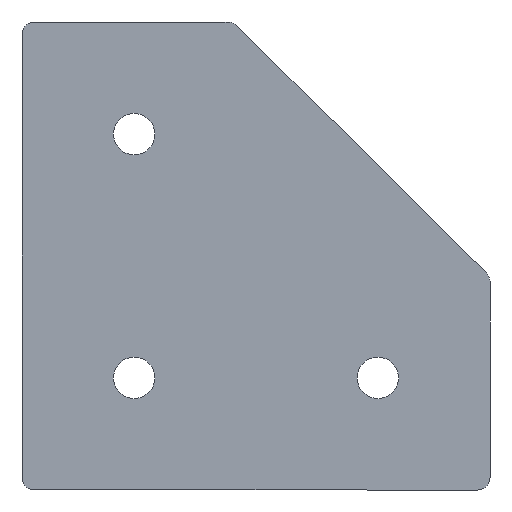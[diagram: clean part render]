
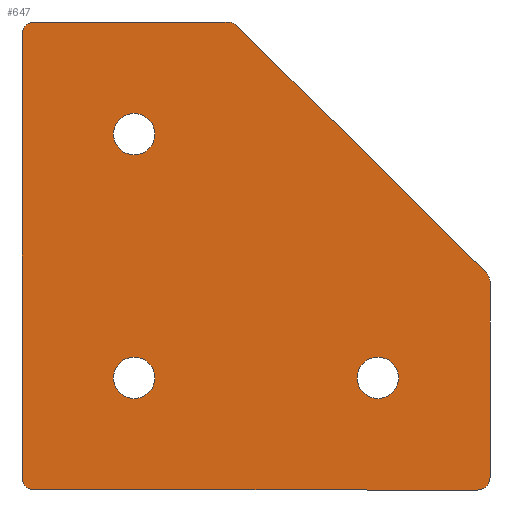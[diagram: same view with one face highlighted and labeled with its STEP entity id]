
A CAD part, front view. The second image highlights one B-rep face of the part: STEP entity #647.
In plain terms, the highlighted planar face has unit normal (0, -1, 0).
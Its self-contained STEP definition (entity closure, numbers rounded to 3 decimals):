
#1 = AXIS2_PLACEMENT_3D ( 'NONE', #156, #250, #346 ) ;
#5 = AXIS2_PLACEMENT_3D ( 'NONE', #343, #595, #181 ) ;
#6 = AXIS2_PLACEMENT_3D ( 'NONE', #230, #565, #49 ) ;
#7 = CARTESIAN_POINT ( 'NONE',  ( -44.444, 0., 18.161 ) ) ;
#9 = AXIS2_PLACEMENT_3D ( 'NONE', #414, #541, #379 ) ;
#12 = VERTEX_POINT ( 'NONE', #303 ) ;
#20 = CARTESIAN_POINT ( 'NONE',  ( 5.556, 0., -23.339 ) ) ;
#24 = DIRECTION ( 'NONE',  ( 0., 0., 1. ) ) ;
#25 = VERTEX_POINT ( 'NONE', #209 ) ;
#27 = AXIS2_PLACEMENT_3D ( 'NONE', #149, #554, #386 ) ;
#28 = AXIS2_PLACEMENT_3D ( 'NONE', #496, #606, #108 ) ;
#29 = VERTEX_POINT ( 'NONE', #20 ) ;
#30 = AXIS2_PLACEMENT_3D ( 'NONE', #253, #148, #411 ) ;
#34 = ORIENTED_EDGE ( 'NONE', *, *, #223, .F. ) ;
#35 = DIRECTION ( 'NONE',  ( 0., 0., 1. ) ) ;
#37 = DIRECTION ( 'NONE',  ( 0., 1., 0. ) ) ;
#39 = AXIS2_PLACEMENT_3D ( 'NONE', #610, #397, #611 ) ;
#44 = EDGE_CURVE ( 'NONE', #443, #12, #512, .T. ) ;
#49 = DIRECTION ( 'NONE',  ( 0., 0., 1. ) ) ;
#52 = EDGE_CURVE ( 'NONE', #252, #184, #371, .T. ) ;
#67 = CARTESIAN_POINT ( 'NONE',  ( -64.844, 0., 45.411 ) ) ;
#72 = EDGE_CURVE ( 'NONE', #198, #227, #530, .T. ) ;
#74 = EDGE_CURVE ( 'NONE', #267, #443, #534, .T. ) ;
#85 = EDGE_CURVE ( 'NONE', #247, #267, #579, .T. ) ;
#88 = EDGE_CURVE ( 'NONE', #25, #198, #564, .T. ) ;
#89 = ORIENTED_EDGE ( 'NONE', *, *, #119, .F. ) ;
#92 = EDGE_CURVE ( 'NONE', #12, #297, #553, .T. ) ;
#94 = EDGE_CURVE ( 'NONE', #528, #247, #566, .T. ) ;
#100 = FACE_BOUND ( 'NONE', #164, .T. ) ;
#108 = DIRECTION ( 'NONE',  ( 0., 0., 1. ) ) ;
#109 = ORIENTED_EDGE ( 'NONE', *, *, #428, .T. ) ;
#111 = EDGE_CURVE ( 'NONE', #476, #169, #567, .T. ) ;
#119 = EDGE_CURVE ( 'NONE', #281, #528, #589, .T. ) ;
#120 = CARTESIAN_POINT ( 'NONE',  ( 28.556, 0., -7.906 ) ) ;
#127 = EDGE_CURVE ( 'NONE', #29, #452, #609, .T. ) ;
#128 = EDGE_CURVE ( 'NONE', #452, #29, #622, .T. ) ;
#138 = AXIS2_PLACEMENT_3D ( 'NONE', #339, #639, #594 ) ;
#147 = EDGE_CURVE ( 'NONE', #297, #25, #648, .T. ) ;
#148 = DIRECTION ( 'NONE',  ( 0., 1., 0. ) ) ;
#149 = CARTESIAN_POINT ( 'NONE',  ( 25.956, 0., -47.989 ) ) ;
#155 = EDGE_CURVE ( 'NONE', #184, #252, #255, .T. ) ;
#156 = CARTESIAN_POINT ( 'NONE',  ( 5.556, 0., -27.589 ) ) ;
#164 = EDGE_LOOP ( 'NONE', ( #109, #194 ) ) ;
#166 = DIRECTION ( 'NONE',  ( 0., 0., -1. ) ) ;
#169 = VERTEX_POINT ( 'NONE', #265 ) ;
#170 = CARTESIAN_POINT ( 'NONE',  ( -44.444, 0., -23.339 ) ) ;
#181 = DIRECTION ( 'NONE',  ( 0., 0., 1. ) ) ;
#184 = VERTEX_POINT ( 'NONE', #325 ) ;
#193 = ORIENTED_EDGE ( 'NONE', *, *, #74, .F. ) ;
#194 = ORIENTED_EDGE ( 'NONE', *, *, #111, .T. ) ;
#198 = VERTEX_POINT ( 'NONE', #67 ) ;
#209 = CARTESIAN_POINT ( 'NONE',  ( -67.444, 0., 42.811 ) ) ;
#216 = EDGE_LOOP ( 'NONE', ( #495, #241 ) ) ;
#223 = EDGE_CURVE ( 'NONE', #227, #281, #537, .T. ) ;
#227 = VERTEX_POINT ( 'NONE', #667 ) ;
#230 = CARTESIAN_POINT ( 'NONE',  ( -44.444, 0., 22.411 ) ) ;
#232 = ORIENTED_EDGE ( 'NONE', *, *, #85, .F. ) ;
#241 = ORIENTED_EDGE ( 'NONE', *, *, #127, .T. ) ;
#247 = VERTEX_POINT ( 'NONE', #120 ) ;
#250 = DIRECTION ( 'NONE',  ( 0., 1., 0. ) ) ;
#252 = VERTEX_POINT ( 'NONE', #7 ) ;
#253 = CARTESIAN_POINT ( 'NONE',  ( -64.844, 0., -47.989 ) ) ;
#255 = CIRCLE ( 'NONE', #6, 4.25 ) ;
#265 = CARTESIAN_POINT ( 'NONE',  ( -44.444, 0., -31.839 ) ) ;
#267 = VERTEX_POINT ( 'NONE', #394 ) ;
#269 = CARTESIAN_POINT ( 'NONE',  ( -25.187, 0., 45.411 ) ) ;
#281 = VERTEX_POINT ( 'NONE', #463 ) ;
#289 = CARTESIAN_POINT ( 'NONE',  ( 27.787, 0., -6.059 ) ) ;
#290 = AXIS2_PLACEMENT_3D ( 'NONE', #424, #37, #35 ) ;
#297 = VERTEX_POINT ( 'NONE', #400 ) ;
#303 = CARTESIAN_POINT ( 'NONE',  ( -64.844, 0., -50.589 ) ) ;
#308 = CARTESIAN_POINT ( 'NONE',  ( -67.444, 0., 42.811 ) ) ;
#309 = ORIENTED_EDGE ( 'NONE', *, *, #88, .F. ) ;
#313 = CIRCLE ( 'NONE', #462, 4.25 ) ;
#325 = CARTESIAN_POINT ( 'NONE',  ( -44.444, 0., 26.661 ) ) ;
#330 = ORIENTED_EDGE ( 'NONE', *, *, #155, .T. ) ;
#339 = CARTESIAN_POINT ( 'NONE',  ( -25.187, 0., 42.811 ) ) ;
#343 = CARTESIAN_POINT ( 'NONE',  ( 5.556, 0., -27.589 ) ) ;
#346 = DIRECTION ( 'NONE',  ( 0., 0., 1. ) ) ;
#355 = FACE_BOUND ( 'NONE', #216, .T. ) ;
#361 = FACE_OUTER_BOUND ( 'NONE', #498, .T. ) ;
#368 = DIRECTION ( 'NONE',  ( 0., 0., 1. ) ) ;
#371 = CIRCLE ( 'NONE', #39, 4.25 ) ;
#373 = PLANE ( 'NONE',  #138 ) ;
#376 = ORIENTED_EDGE ( 'NONE', *, *, #52, .T. ) ;
#379 = DIRECTION ( 'NONE',  ( 0., 0., 1. ) ) ;
#385 = DIRECTION ( 'NONE',  ( 1., 0., 0. ) ) ;
#386 = DIRECTION ( 'NONE',  ( 0., 0., -1. ) ) ;
#392 = CARTESIAN_POINT ( 'NONE',  ( 25.956, 0., -50.589 ) ) ;
#393 = CARTESIAN_POINT ( 'NONE',  ( 28.556, 0., -47.989 ) ) ;
#394 = CARTESIAN_POINT ( 'NONE',  ( 28.556, 0., -47.989 ) ) ;
#397 = DIRECTION ( 'NONE',  ( 0., 1., 0. ) ) ;
#399 = VECTOR ( 'NONE', #24, 1000. ) ;
#400 = CARTESIAN_POINT ( 'NONE',  ( -67.444, 0., -47.989 ) ) ;
#411 = DIRECTION ( 'NONE',  ( 0., 0., -1. ) ) ;
#414 = CARTESIAN_POINT ( 'NONE',  ( 25.956, 0., -7.906 ) ) ;
#424 = CARTESIAN_POINT ( 'NONE',  ( -44.444, 0., -27.589 ) ) ;
#427 = ORIENTED_EDGE ( 'NONE', *, *, #44, .F. ) ;
#428 = EDGE_CURVE ( 'NONE', #169, #476, #313, .T. ) ;
#429 = ORIENTED_EDGE ( 'NONE', *, *, #72, .F. ) ;
#441 = ORIENTED_EDGE ( 'NONE', *, *, #147, .F. ) ;
#443 = VERTEX_POINT ( 'NONE', #392 ) ;
#452 = VERTEX_POINT ( 'NONE', #517 ) ;
#453 = ORIENTED_EDGE ( 'NONE', *, *, #92, .F. ) ;
#462 = AXIS2_PLACEMENT_3D ( 'NONE', #630, #509, #368 ) ;
#463 = CARTESIAN_POINT ( 'NONE',  ( -23.356, 0., 44.657 ) ) ;
#473 = ORIENTED_EDGE ( 'NONE', *, *, #94, .F. ) ;
#476 = VERTEX_POINT ( 'NONE', #170 ) ;
#484 = CARTESIAN_POINT ( 'NONE',  ( 25.956, 0., -50.589 ) ) ;
#495 = ORIENTED_EDGE ( 'NONE', *, *, #128, .T. ) ;
#496 = CARTESIAN_POINT ( 'NONE',  ( -64.844, 0., 42.811 ) ) ;
#498 = EDGE_LOOP ( 'NONE', ( #34, #429, #309, #441, #453, #427, #193, #232, #473, #89 ) ) ;
#507 = EDGE_LOOP ( 'NONE', ( #376, #330 ) ) ;
#509 = DIRECTION ( 'NONE',  ( 0., 1., 0. ) ) ;
#512 = LINE ( 'NONE', #484, #523 ) ;
#515 = DIRECTION ( 'NONE',  ( -1., 0., 0. ) ) ;
#517 = CARTESIAN_POINT ( 'NONE',  ( 5.556, 0., -31.839 ) ) ;
#523 = VECTOR ( 'NONE', #515, 1000. ) ;
#528 = VERTEX_POINT ( 'NONE', #289 ) ;
#530 = LINE ( 'NONE', #269, #555 ) ;
#534 = CIRCLE ( 'NONE', #27, 2.6 ) ;
#537 = CIRCLE ( 'NONE', #581, 2.6 ) ;
#538 = VECTOR ( 'NONE', #568, 1000. ) ;
#541 = DIRECTION ( 'NONE',  ( 0., 1., 0. ) ) ;
#553 = CIRCLE ( 'NONE', #30, 2.6 ) ;
#554 = DIRECTION ( 'NONE',  ( 0., 1., 0. ) ) ;
#555 = VECTOR ( 'NONE', #385, 1000. ) ;
#564 = CIRCLE ( 'NONE', #28, 2.6 ) ;
#565 = DIRECTION ( 'NONE',  ( 0., 1., 0. ) ) ;
#566 = CIRCLE ( 'NONE', #9, 2.6 ) ;
#567 = CIRCLE ( 'NONE', #290, 4.25 ) ;
#568 = DIRECTION ( 'NONE',  ( 0., 0., -1. ) ) ;
#579 = LINE ( 'NONE', #393, #538 ) ;
#581 = AXIS2_PLACEMENT_3D ( 'NONE', #582, #661, #166 ) ;
#582 = CARTESIAN_POINT ( 'NONE',  ( -25.187, 0., 42.811 ) ) ;
#589 = LINE ( 'NONE', #619, #601 ) ;
#594 = DIRECTION ( 'NONE',  ( 0., 0., -1. ) ) ;
#595 = DIRECTION ( 'NONE',  ( 0., 1., 0. ) ) ;
#597 = FACE_BOUND ( 'NONE', #507, .T. ) ;
#600 = DIRECTION ( 'NONE',  ( 0.71, 0., -0.704 ) ) ;
#601 = VECTOR ( 'NONE', #600, 1000. ) ;
#606 = DIRECTION ( 'NONE',  ( 0., 1., 0. ) ) ;
#609 = CIRCLE ( 'NONE', #1, 4.25 ) ;
#610 = CARTESIAN_POINT ( 'NONE',  ( -44.444, 0., 22.411 ) ) ;
#611 = DIRECTION ( 'NONE',  ( 0., 0., 1. ) ) ;
#619 = CARTESIAN_POINT ( 'NONE',  ( 27.787, 0., -6.059 ) ) ;
#622 = CIRCLE ( 'NONE', #5, 4.25 ) ;
#630 = CARTESIAN_POINT ( 'NONE',  ( -44.444, 0., -27.589 ) ) ;
#639 = DIRECTION ( 'NONE',  ( 0., -1., 0. ) ) ;
#647 = ADVANCED_FACE ( 'NONE', ( #597, #361, #100, #355 ), #373, .T. ) ;
#648 = LINE ( 'NONE', #308, #399 ) ;
#661 = DIRECTION ( 'NONE',  ( 0., 1., 0. ) ) ;
#667 = CARTESIAN_POINT ( 'NONE',  ( -25.187, 0., 45.411 ) ) ;
